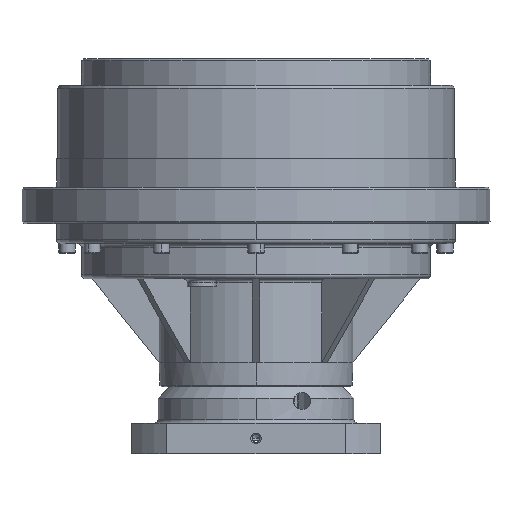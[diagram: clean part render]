
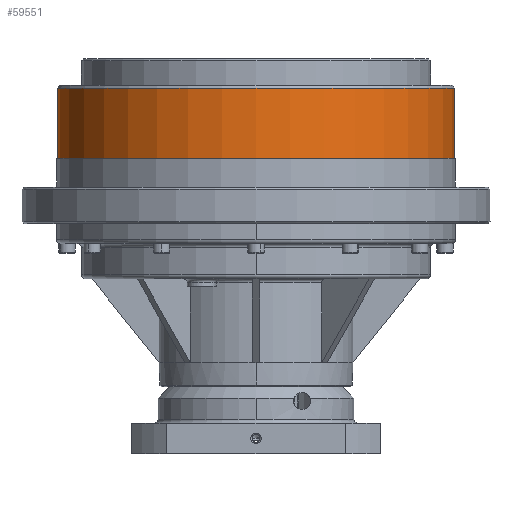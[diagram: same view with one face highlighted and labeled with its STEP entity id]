
A CAD part, front view. The second image highlights one B-rep face of the part: STEP entity #59551.
In plain terms, the highlighted cylindrical face has radius 103.5 mm (diameter 207 mm), a partial arc.
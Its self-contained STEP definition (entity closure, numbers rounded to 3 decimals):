
#872 = VERTEX_POINT ( 'NONE', #29213 ) ;
#4028 = FACE_OUTER_BOUND ( 'NONE', #123893, .T. ) ;
#5683 = VERTEX_POINT ( 'NONE', #124524 ) ;
#15132 = CARTESIAN_POINT ( 'NONE',  ( 0., 0., 70.5 ) ) ;
#17446 = LINE ( 'NONE', #100163, #83249 ) ;
#18130 = DIRECTION ( 'NONE',  ( 0., 0., 1. ) ) ;
#20398 = CARTESIAN_POINT ( 'NONE',  ( 103.5, 0., 34. ) ) ;
#25005 = DIRECTION ( 'NONE',  ( -1., 0., 0. ) ) ;
#26000 = AXIS2_PLACEMENT_3D ( 'NONE', #15132, #122148, #78304 ) ;
#29213 = CARTESIAN_POINT ( 'NONE',  ( -103.5, 0., 70.5 ) ) ;
#30153 = ORIENTED_EDGE ( 'NONE', *, *, #49548, .T. ) ;
#36942 = CARTESIAN_POINT ( 'NONE',  ( 103.5, 0., 70.5 ) ) ;
#37050 = CIRCLE ( 'NONE', #26000, 103.5 ) ;
#37407 = EDGE_CURVE ( 'NONE', #872, #40541, #37050, .T. ) ;
#40541 = VERTEX_POINT ( 'NONE', #36942 ) ;
#41395 = CARTESIAN_POINT ( 'NONE',  ( -103.5, 0., 34. ) ) ;
#49548 = EDGE_CURVE ( 'NONE', #87872, #40541, #17446, .T. ) ;
#59551 = ADVANCED_FACE ( 'NONE', ( #4028 ), #128408, .T. ) ;
#62089 = AXIS2_PLACEMENT_3D ( 'NONE', #120211, #129246, #25005 ) ;
#65123 = DIRECTION ( 'NONE',  ( -1., 0., 0. ) ) ;
#66388 = AXIS2_PLACEMENT_3D ( 'NONE', #120073, #117996, #65123 ) ;
#78304 = DIRECTION ( 'NONE',  ( -1., 0., 0. ) ) ;
#81731 = DIRECTION ( 'NONE',  ( 0., 0., 1. ) ) ;
#82416 = LINE ( 'NONE', #41395, #88218 ) ;
#83249 = VECTOR ( 'NONE', #18130, 1000. ) ;
#86755 = ORIENTED_EDGE ( 'NONE', *, *, #132050, .F. ) ;
#87872 = VERTEX_POINT ( 'NONE', #20398 ) ;
#88218 = VECTOR ( 'NONE', #81731, 1000. ) ;
#100163 = CARTESIAN_POINT ( 'NONE',  ( 103.5, 0., 34. ) ) ;
#101448 = ORIENTED_EDGE ( 'NONE', *, *, #37407, .F. ) ;
#107823 = EDGE_CURVE ( 'NONE', #87872, #5683, #113279, .T. ) ;
#113279 = CIRCLE ( 'NONE', #62089, 103.5 ) ;
#115251 = ORIENTED_EDGE ( 'NONE', *, *, #107823, .F. ) ;
#117996 = DIRECTION ( 'NONE',  ( 0., 0., 1. ) ) ;
#120073 = CARTESIAN_POINT ( 'NONE',  ( 0., 0., 34. ) ) ;
#120211 = CARTESIAN_POINT ( 'NONE',  ( 0., 0., 34. ) ) ;
#122148 = DIRECTION ( 'NONE',  ( 0., 0., 1. ) ) ;
#123893 = EDGE_LOOP ( 'NONE', ( #115251, #30153, #101448, #86755 ) ) ;
#124524 = CARTESIAN_POINT ( 'NONE',  ( -103.5, 0., 34. ) ) ;
#128408 = CYLINDRICAL_SURFACE ( 'NONE', #66388, 103.5 ) ;
#129246 = DIRECTION ( 'NONE',  ( 0., 0., -1. ) ) ;
#132050 = EDGE_CURVE ( 'NONE', #5683, #872, #82416, .T. ) ;
